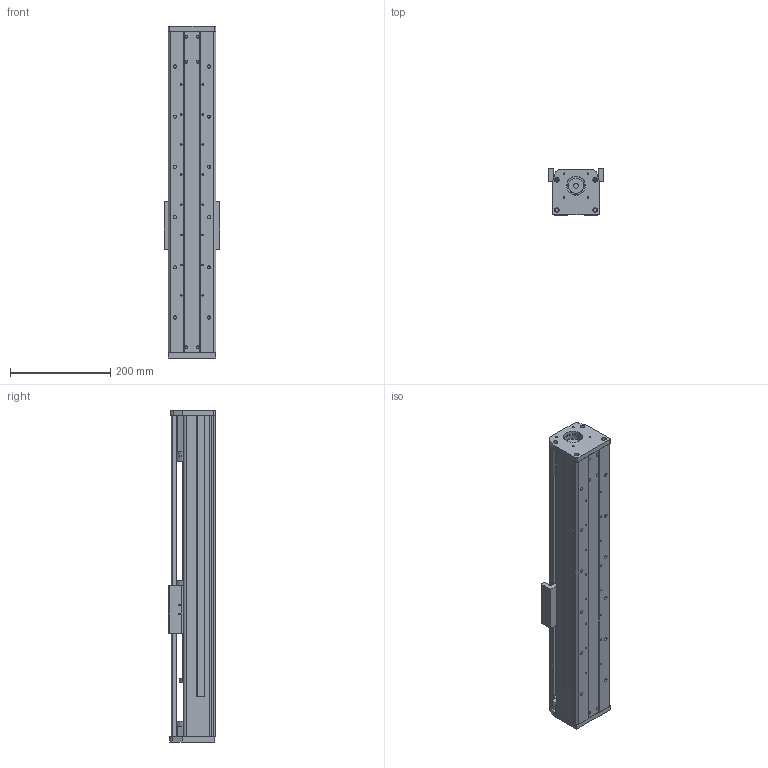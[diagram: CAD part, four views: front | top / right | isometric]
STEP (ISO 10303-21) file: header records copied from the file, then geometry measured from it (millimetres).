
FILE_DESCRIPTION (( 'STEP AP203' ), '1' );
FILE_NAME ('CF95-2-P400.STEP', '2016-02-22T07:28:05', ( 'Sky123.Org' ), ( 'Sky123.Org' ), 'SwSTEP 2.0', 'SolidWorks 2015', '' );
FILE_SCHEMA (( 'CONFIG_CONTROL_DESIGN' ));
Length unit declared in the file: millimetre
Products named in the file (19): 30-42薊粣ん; 95粣創裔啣; CF95-2-P400; 95盓厥傷; SFS1610-520; 坶踡蹟譫M12-1; 95裔啣-1; 95-2邧寢賑輸; HGR15絳寢; SFU1604-3; hGH15CA賑輸; 95滅袉蝶菜; CF95-57萇儂假蚾啣; 95-2耜啣; CF95固定座（配30-42联轴器）; deep groove ball bearings gb_Rolling bearings 6001 GB 276-94; angular contact ball bearings gb_Rolling bearings S7001 GB 292-94; CF95-2臏倰第; circlips for shaft--type a large gb_GB_CONNECTING_PIECE_RING_RRA 12
Assembly tree (22 placements, depth 2):
  CF95-2-P400
    CF95-2臏倰第
    95粣創裔啣
    SFS1610-520
    95裔啣-1
    HGR15絳寢  x2
    hGH15CA賑輸  x2
    CF95-57萇儂假蚾啣
    CF95固定座（配30-42联轴器）
    angular contact ball bearings gb_Rolling bearings S7001 GB 292-94  x2
    30-42薊粣ん
    95盓厥傷
    坶踡蹟譫M12-1
    95-2邧寢賑輸
    SFU1604-3
    95滅袉蝶菜  x2
    95-2耜啣
    deep groove ball bearings gb_Rolling bearings 6001 GB 276-94
    circlips for shaft--type a large gb_GB_CONNECTING_PIECE_RING_RRA 12
Bounding box: 110 x 92.5 x 661 mm (x, y, z)
Volume: 2447530.8 mm3; surface area: 767318.3 mm2
Topology: 22 solids, 22 shells, 1345 faces, 4262 edges, 2838 vertices
Faces by surface type: cylinder 567, plane 524, torus 159, sphere 84, cone 10, bspline 1
Entity records: 43364 total; most frequent: CARTESIAN_POINT 11496, ORIENTED_EDGE 6370, DIRECTION 6248, EDGE_CURVE 3185, AXIS2_PLACEMENT_3D 2463, VERTEX_POINT 2115, EDGE_LOOP 1364, CIRCLE 1345
